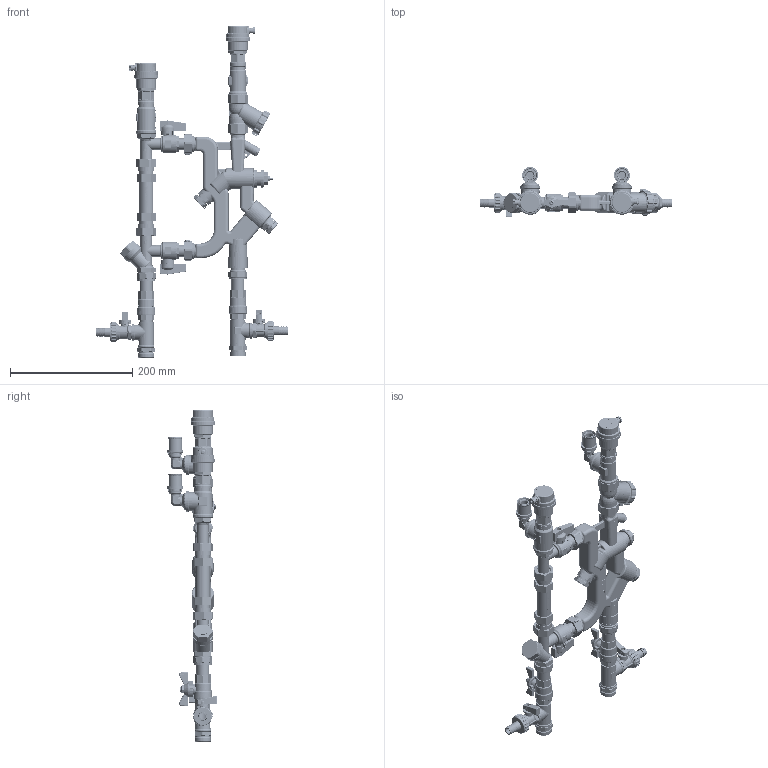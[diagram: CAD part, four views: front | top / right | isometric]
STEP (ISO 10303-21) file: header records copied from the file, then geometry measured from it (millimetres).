
FILE_DESCRIPTION(('TFLEX Exchange Step'),'2;1');
FILE_NAME('VT.IVCM.0000.R.R.stp', '2023-11-17T17:41:51+03:00',('denis'),('Unknown organisation'),'TFLEX Exchange 2023.0','T-FLEX CAD','Unknown authorisation');
FILE_SCHEMA( ('AUTOMOTIVE_DESIGN { 1 0 10303 214 1 1 1 1 }') );
Length unit declared in the file: millimetre
Products named in the file (1): VT.IVCM.0000.R.R
Bounding box: 315.4 x 81.16 x 543.21 mm (x, y, z)
Volume: 920357.4 mm3; surface area: 364467.9 mm2
Topology: 94 solids, 96 shells, 11169 faces, 28663 edges, 18040 vertices
Faces by surface type: cylinder 3887, plane 2880, bspline 2708, torus 977, cone 449, sphere 268
Full cylindrical faces by diameter (mm): 3.5 x2, 4 x1, 4.5 x2, 6 x4, 7 x4, 8 x7, 8.9 x2, 8.917 x1, 9 x2, 10 x3, 11 x3, 11.1 x2, 12 x4, 12.5 x4, 13.5 x6, 13.9 x2, 14 x2, 14.5 x4, 14.6 x2, 15 x16, 15.5 x2, 15.729 x2, 15.9 x2, 16 x6, 16.6 x1, 17 x2, 17.2 x2, 17.9 x6, 18 x4, 18.3 x4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
Entity records: 530816 total; most frequent: CARTESIAN_POINT 293850, ORIENTED_EDGE 56986, DIRECTION 36641, EDGE_CURVE 28493, VERTEX_POINT 18034, AXIS2_PLACEMENT_3D 13868, B_SPLINE_CURVE_WITH_KNOTS 13501, EDGE_LOOP 11855
